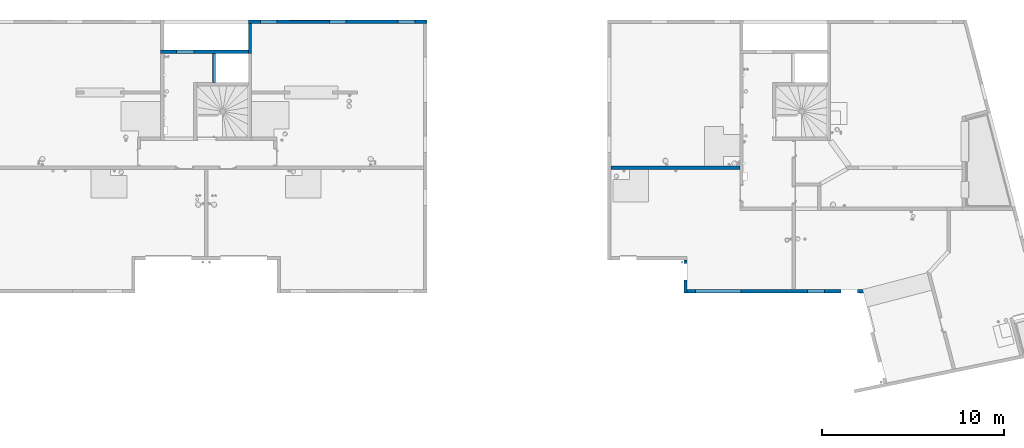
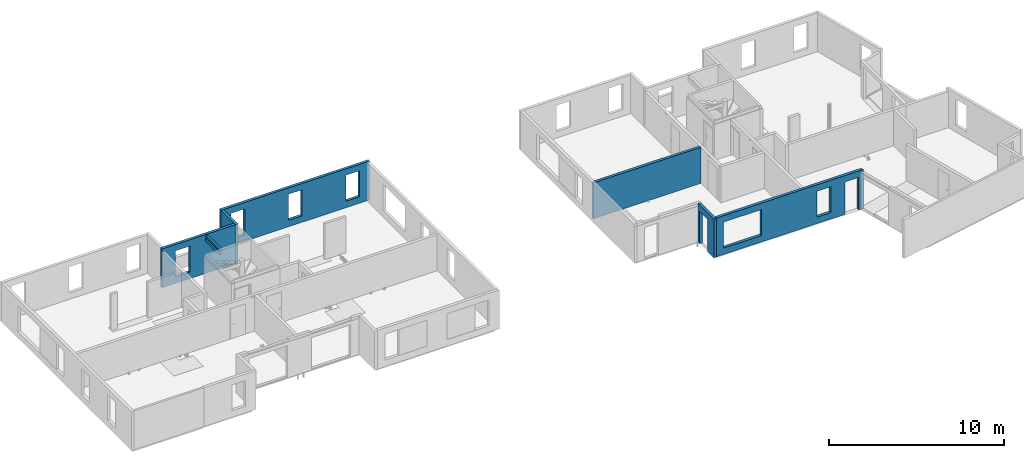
# One storey, part 11 of 24: 7 walls, 12 openings.
"""IFC2X3 building model written with IfcOpenShell, lengths in centimetres."""

from ifc_helpers import new_model, entity, si_unit, converted_unit, derived_unit, direction, frame, frame_2d, origin, place, context, subcontext, project, spatial, polyline, rectangle, outline, extrude, clip, bounded_halfspace, material, layer, layer_set, layer_usage, type_object, element, save


model = new_model("IFC2X3")

# Units and contexts
model_context = context("Model", 3, precision=0.001, world=origin(), true_north=direction((6.12303176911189e-17, 1.0)))
body_context = subcontext(model_context, "Body", "Model", "MODEL_VIEW")
ifc_project = project(units=[si_unit("LENGTHUNIT", "METRE", prefix="CENTI"), si_unit("AREAUNIT", "SQUARE_METRE"), si_unit("VOLUMEUNIT", "CUBIC_METRE"), converted_unit("PLANEANGLEUNIT", "DEGREE", entity("IfcRatioMeasure", 0.0174532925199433), si_unit("PLANEANGLEUNIT", "RADIAN"), dimensions=[0, 0, 0, 0, 0, 0, 0]), si_unit("MASSUNIT", "GRAM", prefix="KILO"), derived_unit("MASSDENSITYUNIT", [(si_unit("MASSUNIT", "GRAM", prefix="KILO"), 1), (si_unit("LENGTHUNIT", "METRE"), -3)]), si_unit("TIMEUNIT", "SECOND"), si_unit("FREQUENCYUNIT", "HERTZ"), si_unit("THERMODYNAMICTEMPERATUREUNIT", "DEGREE_CELSIUS"), derived_unit("THERMALTRANSMITTANCEUNIT", [(si_unit("MASSUNIT", "GRAM", prefix="KILO"), 1), (si_unit("THERMODYNAMICTEMPERATUREUNIT", "KELVIN"), -1), (si_unit("TIMEUNIT", "SECOND"), -3)]), derived_unit("VOLUMETRICFLOWRATEUNIT", [(si_unit("LENGTHUNIT", "METRE"), 3), (si_unit("TIMEUNIT", "SECOND"), -1)]), si_unit("ELECTRICCURRENTUNIT", "AMPERE"), si_unit("ELECTRICVOLTAGEUNIT", "VOLT"), si_unit("POWERUNIT", "WATT"), si_unit("FORCEUNIT", "NEWTON"), si_unit("ILLUMINANCEUNIT", "LUX"), si_unit("LUMINOUSFLUXUNIT", "LUMEN"), si_unit("LUMINOUSINTENSITYUNIT", "CANDELA"), derived_unit("USERDEFINED", [(si_unit("MASSUNIT", "GRAM", prefix="KILO"), -1), (si_unit("LENGTHUNIT", "METRE"), -2), (si_unit("TIMEUNIT", "SECOND"), 3), (si_unit("LUMINOUSFLUXUNIT", "LUMEN"), 1)]), derived_unit("LINEARVELOCITYUNIT", [(si_unit("LENGTHUNIT", "METRE"), 1), (si_unit("TIMEUNIT", "SECOND"), -1)]), si_unit("PRESSUREUNIT", "PASCAL"), derived_unit("USERDEFINED", [(si_unit("LENGTHUNIT", "METRE"), -2), (si_unit("MASSUNIT", "GRAM", prefix="KILO"), 1), (si_unit("TIMEUNIT", "SECOND"), -2)])], contexts=[model_context])

# Site, building, storey
site_placement = place(None, origin())
site = spatial("IfcSite", under=ifc_project, at=site_placement, Name="Default", CompositionType="ELEMENT")
building_placement = place(site_placement, origin())
building = spatial("IfcBuilding", under=site, at=building_placement, Name="CAGE 03", CompositionType="ELEMENT")
storey_placement = place(building_placement, frame((0.0, 0.0, 1150.0)))
storey = spatial("IfcBuildingStorey", under=building, at=storey_placement, Name="R+4", CompositionType="ELEMENT", Elevation=1150.0)

# Wall, opening
ifc_material = material(Name="Béton, C25/30")
ifc_layer = layer(ifc_material, 18.0)
ifc_layer_set = layer_set([ifc_layer], Name="Mur de base:Voile BA 18")
ifc_layer_usage_1 = layer_usage(ifc_layer_set, "AXIS2", "POSITIVE", -9.0)
wall_type = type_object("IfcWallType", Name="Mur de base:Voile BA 18", PredefinedType="STANDARD", material=ifc_layer_set)
wall_1_placement = place(storey_placement, frame((9712.36582014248, 3976.66066607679, 0.0), z_axis=(0.0, 0.0, 1.0), x_axis=(0.0, -1.0, 0.0)))
wall_1 = element("IfcWallStandardCase", 1, at=wall_1_placement, inside=storey, type_object=wall_type, material=ifc_layer_usage_1, Name="Mur de base:Voile BA 18", ObjectType="Mur de base:Voile BA 18", context=body_context, shape_type="SweptSolid", body=[
    extrude(rectangle(XDim=179.999999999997, YDim=17.9999999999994, at=frame_2d((89.9999999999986, -3.91686683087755e-13), x_axis=(-1.0, 0.0))), origin(), (0.0, 0.0, 1.0), 270.0),
])
opening_1_placement = place(wall_1_placement, frame((3976.66066607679, -9712.36582014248, 0.0), z_axis=(0.0, 0.0, 1.0), x_axis=(0.0, 1.0, 0.0)))
element("IfcOpeningElement", 2, at=opening_1_placement, cuts=wall_1, Name="Mur de base:Voile BA 18", ObjectType="Opening", context=body_context, shape_type="SweptSolid", body=[
    extrude(rectangle(XDim=226.0, YDim=91.0000000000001, at=frame_2d((0.0, -1.13686837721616e-13), x_axis=(0.0, 1.0))), frame((9568.96582014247, 3912.16066607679, 113.0), z_axis=(1.0, 0.0, 0.0), x_axis=(0.0, 1.0, 0.0)), (0.0, 0.0, 1.0), 304.8),
])

# Wall, openings
ifc_layer_usage_2 = layer_usage(ifc_layer_set, "AXIS2", "POSITIVE", -9.0)
wall_2_placement = place(storey_placement, frame((9721.36582014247, 3805.66066607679, 0.0)))
wall_2 = element("IfcWallStandardCase", 3, at=wall_2_placement, inside=storey, type_object=wall_type, material=ifc_layer_usage_2, Name="Mur de base:Voile BA 18", ObjectType="Mur de base:Voile BA 18", context=body_context, shape_type="SweptSolid", body=[
    extrude(outline(polyline([(0.0, -9.0), (786.0, -9.0), (843.0, -9.0), (934.0, -9.0), (948.259414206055, -9.0), (950.32649087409, -9.0), (966.863104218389, -9.0), (965.180291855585, -2.55624871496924), (962.162329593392, 9.0), (934.0, 9.0), (843.0, 9.0), (786.0, 9.0), (0.0, 9.0), (0.0, -9.0)])), origin(), (0.0, 0.0, 1.0), 270.0),
])
opening_2_placement = place(wall_2_placement, origin())
element("IfcOpeningElement", 4, at=opening_2_placement, cuts=wall_2, Name="Mur de base:Voile BA 18", ObjectType="Opening", context=body_context, shape_type="SweptSolid", body=[
    extrude(rectangle(XDim=226.0, YDim=90.9999999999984, at=frame_2d((-8.66862137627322e-13, -1.13686837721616e-13), x_axis=(0.0, 1.0))), frame((888.500000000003, -161.400000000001, 383.0), z_axis=(0.0, 1.0, 0.0), x_axis=(-1.0, 0.0, 0.0)), (0.0, 0.0, 1.0), 304.8),
])
opening_3_placement = place(wall_2_placement, frame((-9721.36582014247, -3805.66066607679, 0.0)))
element("IfcOpeningElement", 5, at=opening_3_placement, cuts=wall_2, Name="Mur de base:Voile BA 18", ObjectType="Opening", context=body_context, shape_type="SweptSolid", body=[
    extrude(rectangle(XDim=226.0, YDim=90.9999999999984, at=frame_2d((8.66862137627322e-13, -1.13686837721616e-13), x_axis=(0.0, 1.0))), frame((10610.8658201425, 3644.26066607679, 113.0), z_axis=(0.0, 1.0, 0.0), x_axis=(-1.0, 0.0, 0.0)), (0.0, 0.0, 1.0), 304.8),
])
opening_4_placement = place(wall_2_placement, frame((-9721.36582014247, -3805.66066607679, 0.0)))
element("IfcOpeningElement", 6, at=opening_4_placement, cuts=wall_2, Name="Mur de base:Voile BA 18", ObjectType="Opening", context=body_context, shape_type="SweptSolid", body=[
    extrude(rectangle(XDim=181.0, YDim=90.9999999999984, at=frame_2d((-8.66862137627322e-13, 1.06581410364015e-13), x_axis=(0.0, 1.0))), frame((10427.8658201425, 3644.26066607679, 135.5), z_axis=(0.0, 1.0, 0.0), x_axis=(-1.0, 0.0, 0.0)), (0.0, 0.0, 1.0), 304.799999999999),
])
opening_5_placement = place(wall_2_placement, frame((-9721.36582014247, -3805.66066607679, 0.0)))
element("IfcOpeningElement", 7, at=opening_5_placement, cuts=wall_2, Name="Mur de base:Voile BA 18", ObjectType="Opening", context=body_context, shape_type="SweptSolid", body=[
    extrude(rectangle(XDim=181.0, YDim=251.0, at=frame_2d((8.66862137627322e-13, 0.0), x_axis=(0.0, 1.0))), frame((9891.86582014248, 3644.26066607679, 135.5), z_axis=(0.0, 1.0, 0.0), x_axis=(-1.0, 0.0, 0.0)), (0.0, 0.0, 1.0), 304.8),
])

ifc_layer_usage_3 = layer_usage(ifc_layer_set, "AXIS2", "POSITIVE", -9.0)
wall_3_placement = place(storey_placement, frame((8292.36582014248, 5284.6606660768, 0.0), z_axis=(0.0, 0.0, 1.0), x_axis=(-1.0, 0.0, 0.0)))
wall_3 = element("IfcWallStandardCase", 8, at=wall_3_placement, inside=storey, type_object=wall_type, material=ifc_layer_usage_3, Name="Mur de base:Voile BA 18", ObjectType="Mur de base:Voile BA 18", context=body_context, shape_type="SweptSolid", body=[
    extrude(rectangle(XDim=978.999999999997, YDim=17.9999999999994, at=frame_2d((489.499999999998, -2.1582735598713e-13), x_axis=(-1.0, 0.0))), origin(), (0.0, 0.0, 1.0), 270.0),
])
opening_6_placement = place(wall_3_placement, origin())
element("IfcOpeningElement", 9, at=opening_6_placement, cuts=wall_3, Name="Mur de base:Voile BA 18", ObjectType="Recess", context=body_context, shape_type="SweptSolid", body=[
    extrude(rectangle(XDim=181.0, YDim=218.0, at=frame_2d((4.33431068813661e-13, -1.06581410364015e-13), x_axis=(0.0, 1.0))), frame((644.0, -9.0, 135.5), z_axis=(0.0, 1.0, 0.0), x_axis=(1.0, 0.0, 0.0)), (0.0, 0.0, 1.0), 1.99999999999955),
])
opening_7_placement = place(wall_3_placement, frame((8292.36582014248, 5284.6606660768, 0.0), z_axis=(0.0, 0.0, 1.0), x_axis=(-1.0, 0.0, 0.0)))
element("IfcOpeningElement", 10, at=opening_7_placement, cuts=wall_3, Name="Mur de base:Voile BA 18", ObjectType="Opening", context=body_context, shape_type="SweptSolid", body=[
    extrude(rectangle(XDim=181.0, YDim=91.0000000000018, at=frame_2d((0.0, 1.06581410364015e-13), x_axis=(0.0, 1.0))), frame((7802.86582014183, 5428.0606660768, 135.5), z_axis=(0.0, -1.0, 0.0), x_axis=(1.0, 0.0, 0.0)), (0.0, 0.0, 1.0), 304.8),
])
opening_8_placement = place(wall_3_placement, frame((8292.36582014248, 5284.6606660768, 0.0), z_axis=(0.0, 0.0, 1.0), x_axis=(-1.0, 0.0, 0.0)))
element("IfcOpeningElement", 11, at=opening_8_placement, cuts=wall_3, Name="Mur de base:Voile BA 18", ObjectType="Opening", context=body_context, shape_type="SweptSolid", body=[
    extrude(rectangle(XDim=181.0, YDim=91.0000000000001, at=frame_2d((0.0, 1.06581410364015e-13), x_axis=(0.0, 1.0))), frame((7424.86582014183, 5428.0606660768, 135.5), z_axis=(0.0, -1.0, 0.0), x_axis=(1.0, 0.0, 0.0)), (0.0, 0.0, 1.0), 304.8),
])
opening_9_placement = place(wall_3_placement, frame((8292.36582014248, 5284.6606660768, 0.0), z_axis=(0.0, 0.0, 1.0), x_axis=(-1.0, 0.0, 0.0)))
element("IfcOpeningElement", 12, at=opening_9_placement, cuts=wall_3, Name="Mur de base:Voile BA 18", ObjectType="Opening", context=body_context, shape_type="SweptSolid", body=[
    extrude(rectangle(XDim=181.0, YDim=90.9999999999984, at=frame_2d((8.66862137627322e-13, 1.06581410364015e-13), x_axis=(0.0, 1.0))), frame((8180.86582014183, 5428.0606660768, 135.5), z_axis=(0.0, -1.0, 0.0), x_axis=(1.0, 0.0, 0.0)), (0.0, 0.0, 1.0), 304.8),
])

# Wall
ifc_layer_usage_4 = layer_usage(ifc_layer_set, "AXIS2", "POSITIVE", -9.0)
wall_4_placement = place(storey_placement, frame((7322.36582014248, 5275.6606660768, 0.0), z_axis=(0.0, 0.0, 1.0), x_axis=(0.0, -1.0, 0.0)))
element("IfcWallStandardCase", 13, at=wall_4_placement, inside=storey, type_object=wall_type, material=ifc_layer_usage_4, Name="Mur de base:Voile BA 18", ObjectType="Mur de base:Voile BA 18", context=body_context, shape_type="SweptSolid", body=[
    extrude(rectangle(XDim=165.0, YDim=17.9999999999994, at=frame_2d((82.4999999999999, -2.1582735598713e-13), x_axis=(-1.0, 0.0))), origin(), (0.0, 0.0, 1.0), 270.0),
])

# Wall, openings
ifc_layer_usage_5 = layer_usage(ifc_layer_set, "AXIS2", "POSITIVE", -9.0)
wall_5_placement = place(storey_placement, frame((7313.36582014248, 5119.6606660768, 0.0), z_axis=(0.0, 0.0, 1.0), x_axis=(-1.0, 0.0, 0.0)))
wall_5 = element("IfcWallStandardCase", 14, at=wall_5_placement, inside=storey, type_object=wall_type, material=ifc_layer_usage_5, Name="Mur de base:Voile BA 18", ObjectType="Mur de base:Voile BA 18", context=body_context, shape_type="SweptSolid", body=[
    extrude(rectangle(XDim=482.0, YDim=17.9999999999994, at=frame_2d((241.0, -1.90958360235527e-13), x_axis=(-1.0, 0.0))), origin(), (0.0, 0.0, 1.0), 270.0),
])
opening_10_placement = place(wall_5_placement, origin())
element("IfcOpeningElement", 15, at=opening_10_placement, cuts=wall_5, Name="Mur de base:Voile BA 18", ObjectType="Opening", context=body_context, shape_type="SweptSolid", body=[
    extrude(rectangle(XDim=227.0, YDim=18.0000000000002, at=frame_2d((4.33431068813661e-13, 0.0), x_axis=(0.0, 1.0))), frame((189.0, 9.0, 113.5), z_axis=(0.0, 1.0, 0.0), x_axis=(-1.0, 0.0, 0.0)), (0.0, 0.0, 1.0), 160.0),
])
opening_11_placement = place(wall_5_placement, frame((7313.36582014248, 5119.6606660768, 0.0), z_axis=(0.0, 0.0, 1.0), x_axis=(-1.0, 0.0, 0.0)))
element("IfcOpeningElement", 16, at=opening_11_placement, cuts=wall_5, Name="Mur de base:Voile BA 18", ObjectType="Opening", context=body_context, shape_type="SweptSolid", body=[
    extrude(rectangle(XDim=181.0, YDim=94.9999999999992, at=frame_2d((0.0, 1.06581410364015e-13), x_axis=(0.0, 1.0))), frame((6966.86582014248, 5263.0606660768, 135.5), z_axis=(0.0, -1.0, 0.0), x_axis=(1.0, 0.0, 0.0)), (0.0, 0.0, 1.0), 304.8),
])

# Wall, opening
ifc_layer_usage_6 = layer_usage(ifc_layer_set, "AXIS2", "POSITIVE", -9.0)
wall_6_placement = place(storey_placement, frame((7124.36582014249, 5110.6606660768, 227.0), z_axis=(0.0, 0.0, 1.0), x_axis=(0.0, -1.0, 0.0)))
wall_6 = element("IfcWallStandardCase", 17, at=wall_6_placement, inside=storey, type_object=wall_type, material=ifc_layer_usage_6, Name="Mur de base:Voile BA 18", ObjectType="Mur de base:Voile BA 18", context=body_context, shape_type="Clipping", body=[
    clip(clip(extrude(rectangle(XDim=160.000000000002, YDim=17.9999999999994, at=frame_2d((80.0000000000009, 2.16715534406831e-13), x_axis=(-1.0, 0.0))), origin(), (0.0, 0.0, 1.0), 36.0000000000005), bounded_halfspace(frame((160.0, -6.0, 23.0), z_axis=(0.0, 0.0, -1.0), x_axis=(0.0, -1.0, 0.0)), True, frame((160.0, -6.0, 23.0), z_axis=(0.0, 0.0, -1.0), x_axis=(0.0, -1.0, 0.0)), polyline([(0.0, 0.0), (3.0, 0.0), (3.0, 160.0), (0.0, 160.0), (0.0, 0.0)]))), bounded_halfspace(frame((0.0, -6.0, 23.0), z_axis=(0.0, 1.0, 0.0), x_axis=(0.0, 0.0, 1.0)), True, frame((0.0, -6.0, 23.0), z_axis=(0.0, 1.0, 0.0), x_axis=(0.0, 0.0, 1.0)), polyline([(0.0, 0.0), (13.0, 0.0), (13.0, 160.0), (0.0, 160.0), (0.0, 0.0)]))),
])
opening_12_placement = place(wall_6_placement, frame((5110.6606660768, -7124.36582014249, -227.0), z_axis=(0.0, 0.0, 1.0), x_axis=(0.0, 1.0, 0.0)))
element("IfcOpeningElement", 18, at=opening_12_placement, cuts=wall_6, Name="Mur de base:Voile BA 18", ObjectType="Opening", context=body_context, shape_type="SweptSolid", body=[
    extrude(rectangle(XDim=227.0, YDim=160.0, at=frame_2d((0.0, 0.0), x_axis=(0.0, 1.0))), frame((6980.96582014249, 5030.6606660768, 113.5), z_axis=(1.0, 0.0, 0.0), x_axis=(0.0, 1.0, 0.0)), (0.0, 0.0, 1.0), 304.8),
])

# Wall
ifc_layer_usage_7 = layer_usage(ifc_layer_set, "AXIS2", "NEGATIVE", 9.0)
wall_7_placement = place(storey_placement, frame((9302.36582014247, 4483.66066607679, 0.0)))
element("IfcWallStandardCase", 19, at=wall_7_placement, inside=storey, type_object=wall_type, material=ifc_layer_usage_7, Name="Mur de base:Voile BA 18", ObjectType="Mur de base:Voile BA 18", context=body_context, shape_type="SweptSolid", body=[
    extrude(rectangle(XDim=708.000000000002, YDim=17.9999999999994, at=frame_2d((354.000000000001, 2.1405099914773e-13), x_axis=(-1.0, 0.0))), origin(), (0.0, 0.0, 1.0), 250.0),
])

save(model, "model.ifc")
